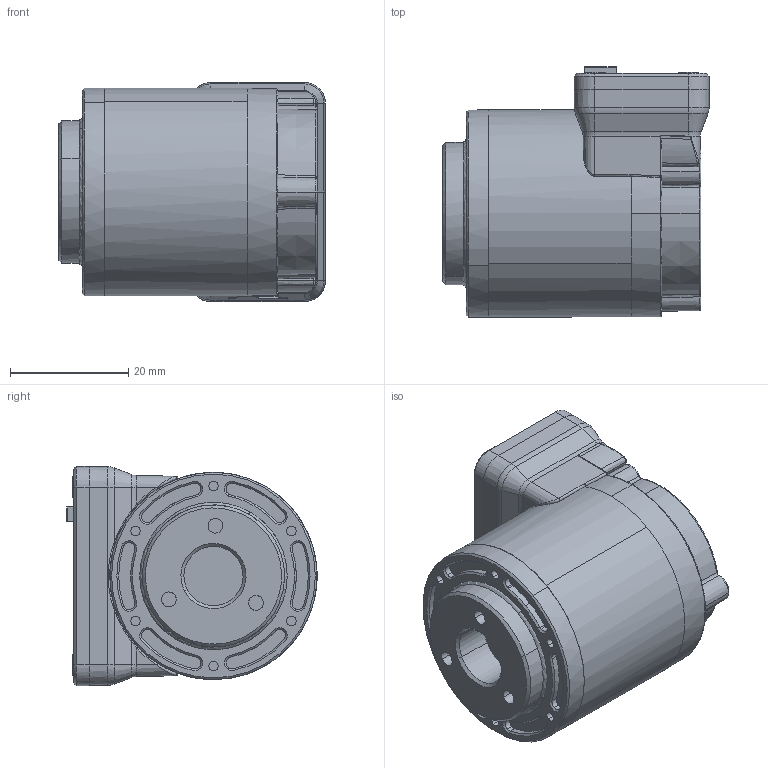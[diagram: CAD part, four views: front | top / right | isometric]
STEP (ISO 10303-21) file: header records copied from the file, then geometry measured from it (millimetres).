
FILE_DESCRIPTION (( 'STEP AP214' ), '1' );
FILE_NAME ('QDD Lite-EL20-36_v1_8.STEP', '2019-11-25T06:05:55', ( '' ), ( '' ), 'SwSTEP 2.0', 'SolidWorks 2018', '' );
FILE_SCHEMA (( 'AUTOMOTIVE_DESIGN' ));
Length unit declared in the file: millimetre
Products named in the file (1): QDD Lite-EL20-36_v1_8
Bounding box: 45.02 x 42.25 x 37 mm (x, y, z)
Volume: 40530.3 mm3; surface area: 17104.7 mm2
Topology: 3 solids, 3 shells, 1286 faces, 3628 edges, 2307 vertices
Faces by surface type: plane 647, cylinder 329, cone 129, bspline 115, torus 54, sphere 12
Entity records: 53747 total; most frequent: CARTESIAN_POINT 13387, ORIENTED_EDGE 7206, DIRECTION 5791, EDGE_CURVE 3603, VERTEX_POINT 2307, VECTOR 2101, LINE 2101, AXIS2_PLACEMENT_3D 1845
